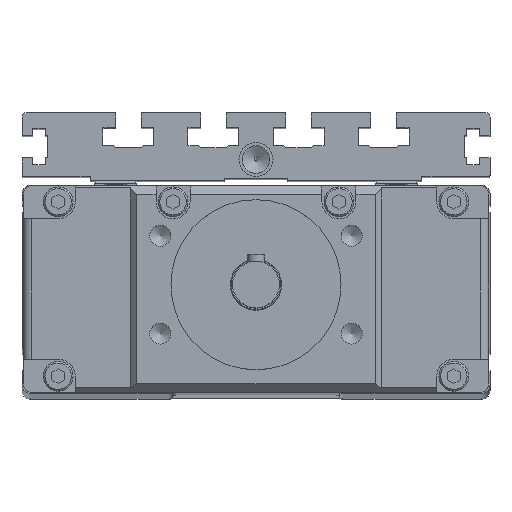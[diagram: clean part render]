
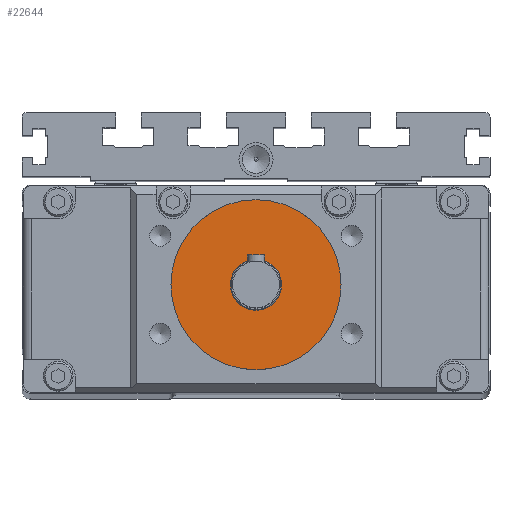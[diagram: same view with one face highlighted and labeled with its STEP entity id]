
A CAD part, top view. The second image highlights one B-rep face of the part: STEP entity #22644.
In plain terms, the highlighted planar face has unit normal (0, 0, 1) as drawn and (1, 0, 0) by its records, which use the part's own axes.
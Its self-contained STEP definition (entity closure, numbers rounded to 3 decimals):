
#150=PLANE('',#23734);
#4721=ORIENTED_EDGE('',*,*,#9023,.F.);
#4722=ORIENTED_EDGE('',*,*,#9024,.T.);
#9023=EDGE_CURVE('',#11201,#11201,#12655,.T.);
#9024=EDGE_CURVE('',#11202,#11202,#12656,.T.);
#11201=VERTEX_POINT('',#30172);
#11202=VERTEX_POINT('',#30174);
#12655=CIRCLE('',#23735,6.);
#12656=CIRCLE('',#23736,20.);
#13130=EDGE_LOOP('',(#4721));
#13131=EDGE_LOOP('',(#4722));
#14410=FACE_BOUND('',#13130,.T.);
#14411=FACE_BOUND('',#13131,.T.);
#22644=ADVANCED_FACE('',(#14410,#14411),#150,.T.);
#23734=AXIS2_PLACEMENT_3D('',#30170,#25458,#25459);
#23735=AXIS2_PLACEMENT_3D('',#30171,#25460,#25461);
#23736=AXIS2_PLACEMENT_3D('',#30173,#25462,#25463);
#25458=DIRECTION('',(1.,0.,0.));
#25459=DIRECTION('',(0.,0.,-1.));
#25460=DIRECTION('',(1.,0.,0.));
#25461=DIRECTION('',(0.,0.,-1.));
#25462=DIRECTION('',(1.,0.,0.));
#25463=DIRECTION('',(0.,0.,-1.));
#30170=CARTESIAN_POINT('',(-2.5,0.,0.));
#30171=CARTESIAN_POINT('',(-2.5,0.,0.));
#30172=CARTESIAN_POINT('',(-2.5,0.,-6.));
#30173=CARTESIAN_POINT('',(-2.5,0.,0.));
#30174=CARTESIAN_POINT('',(-2.5,0.,-20.));
